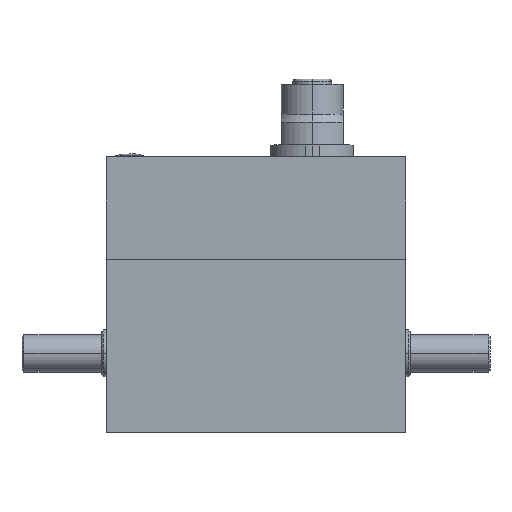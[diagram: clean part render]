
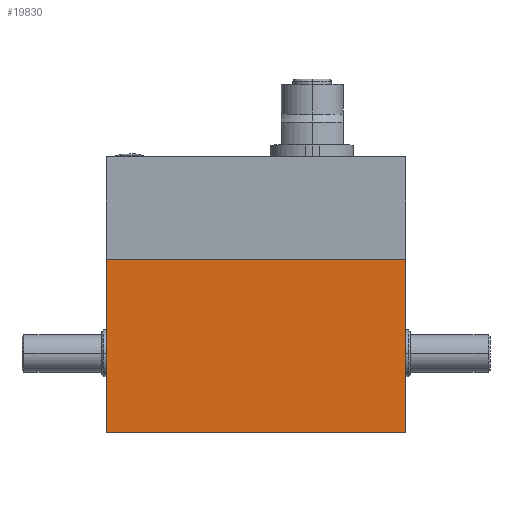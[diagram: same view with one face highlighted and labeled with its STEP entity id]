
A CAD part, top view. The second image highlights one B-rep face of the part: STEP entity #19830.
In plain terms, the highlighted planar face has unit normal (0, 0, 1).
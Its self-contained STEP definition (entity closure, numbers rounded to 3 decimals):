
#189 = ORIENTED_EDGE ( 'NONE', *, *, #7726, .T. ) ;
#290 = LINE ( 'NONE', #6464, #11883 ) ;
#1382 = CARTESIAN_POINT ( 'NONE',  ( 32., 18.5, 17. ) ) ;
#2041 = DIRECTION ( 'NONE',  ( -1., 0., 0. ) ) ;
#2741 = CARTESIAN_POINT ( 'NONE',  ( -32., 18.5, 17. ) ) ;
#2760 = LINE ( 'NONE', #19760, #3376 ) ;
#3376 = VECTOR ( 'NONE', #4481, 1000. ) ;
#3635 = EDGE_CURVE ( 'NONE', #7302, #14257, #2760, .T. ) ;
#3758 = FACE_OUTER_BOUND ( 'NONE', #17031, .T. ) ;
#3811 = ORIENTED_EDGE ( 'NONE', *, *, #3635, .T. ) ;
#4481 = DIRECTION ( 'NONE',  ( -1., 0., 0. ) ) ;
#4801 = EDGE_CURVE ( 'NONE', #7302, #4868, #6341, .T. ) ;
#4868 = VERTEX_POINT ( 'NONE', #18683 ) ;
#4938 = DIRECTION ( 'NONE',  ( 1., 0., 0. ) ) ;
#6341 = LINE ( 'NONE', #1382, #8371 ) ;
#6464 = CARTESIAN_POINT ( 'NONE',  ( 32., -18.5, 17. ) ) ;
#7302 = VERTEX_POINT ( 'NONE', #17354 ) ;
#7693 = DIRECTION ( 'NONE',  ( 0., -1., 0. ) ) ;
#7726 = EDGE_CURVE ( 'NONE', #9643, #4868, #290, .T. ) ;
#7838 = VECTOR ( 'NONE', #7693, 1000. ) ;
#8371 = VECTOR ( 'NONE', #14120, 1000. ) ;
#8682 = ORIENTED_EDGE ( 'NONE', *, *, #4801, .F. ) ;
#9045 = CARTESIAN_POINT ( 'NONE',  ( -32., 18.49, 17. ) ) ;
#9643 = VERTEX_POINT ( 'NONE', #19319 ) ;
#9728 = PLANE ( 'NONE',  #10221 ) ;
#10221 = AXIS2_PLACEMENT_3D ( 'NONE', #15998, #19235, #2041 ) ;
#11554 = EDGE_CURVE ( 'NONE', #14257, #9643, #15087, .T. ) ;
#11883 = VECTOR ( 'NONE', #4938, 1000. ) ;
#11885 = ORIENTED_EDGE ( 'NONE', *, *, #11554, .T. ) ;
#14120 = DIRECTION ( 'NONE',  ( 0., -1., 0. ) ) ;
#14257 = VERTEX_POINT ( 'NONE', #9045 ) ;
#15087 = LINE ( 'NONE', #2741, #7838 ) ;
#15998 = CARTESIAN_POINT ( 'NONE',  ( 32., 18.5, 17. ) ) ;
#17031 = EDGE_LOOP ( 'NONE', ( #8682, #3811, #11885, #189 ) ) ;
#17354 = CARTESIAN_POINT ( 'NONE',  ( 32., 18.49, 17. ) ) ;
#18683 = CARTESIAN_POINT ( 'NONE',  ( 32., -18.5, 17. ) ) ;
#19235 = DIRECTION ( 'NONE',  ( 0., 0., -1. ) ) ;
#19319 = CARTESIAN_POINT ( 'NONE',  ( -32., -18.5, 17. ) ) ;
#19760 = CARTESIAN_POINT ( 'NONE',  ( 32., 18.49, 17. ) ) ;
#19830 = ADVANCED_FACE ( 'NONE', ( #3758 ), #9728, .F. ) ;
